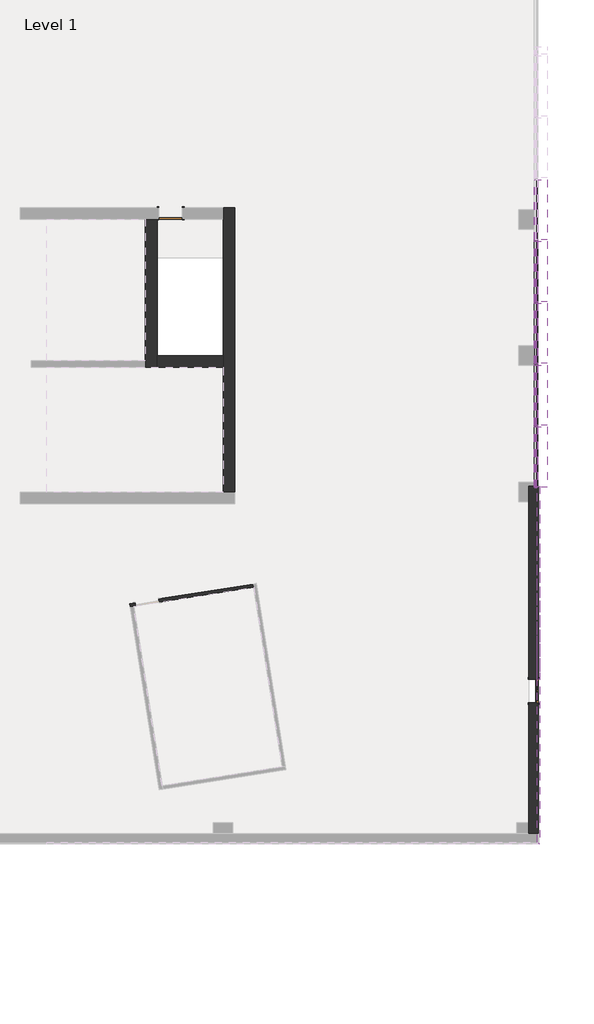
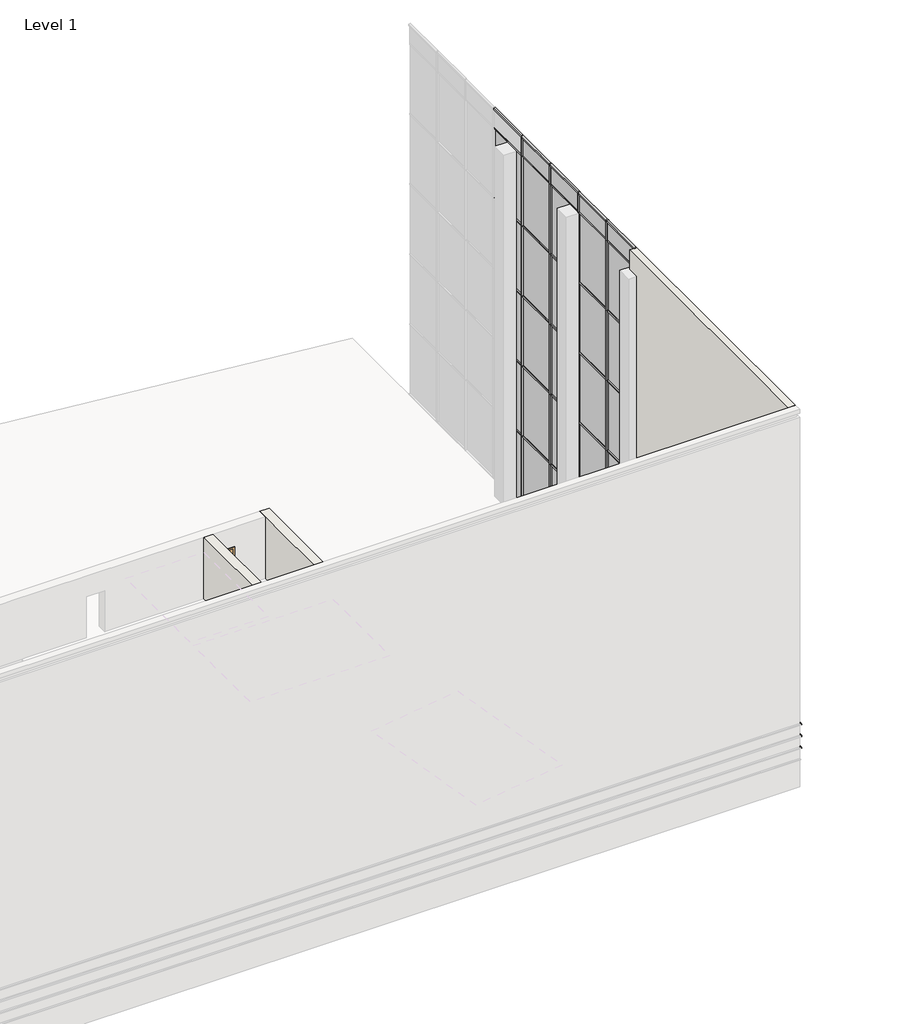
# One storey, part 8 of 23: 64 members, 29 plates, 5 walls, 3 proxies, 2 doors.
"""IFC4 building model written with IfcOpenShell, lengths in millimetres."""

from ifc_helpers import new_model, si_unit, frame, origin, origin_with_axes, place, context, project, spatial, polyline, outline, extrude, faceted_brep, transform, mapped, element, save
from components import door_3c99239a, door_e057ad39, member_4178592a, member_8dc9af40, member_0491a5d0, member_26e31a6d, member_a26b4311, member_810865a4, member_90793d7c, member_64b167af, system_panel_glazed_bb983545, system_panel_solid_a8b18003

model = new_model("IFC4")

# Units and contexts
model_context = context("Model", 3, world=origin())
ifc_project = project(units=[si_unit("LENGTHUNIT", "METRE", prefix="MILLI")], contexts=[model_context])

# Site, building, storey
site = spatial("IfcSite", under=ifc_project)
building = spatial("IfcBuilding", under=site)
storey = spatial("IfcBuildingStorey", under=building, Name="Level 1", Elevation=0.0)

# Proxies
placement = place(None, origin())
element("IfcBuildingElementProxy", 1, Name="Reveals", at=placement, inside=storey, context=model_context, shape_type="SweptSolid", body=[
    extrude(outline(polyline([(15157.6054088, -14142.3728492), (15249.6804088, -14142.3728492), (15249.6804088, -21686.0488327), (15157.6054088, -21686.0488327), (15157.6054088, -14142.3728492)])), frame((0.0, 0.0, 1625.6), z_axis=(0.0, 0.0, 1.0), x_axis=(1.0, 0.0, 0.0)), (0.0, 0.0, 1.0), 67.7333333),
    extrude(outline(polyline([(15157.6054088, -22600.4488327), (15249.6804088, -22600.4488327), (15249.6804088, -28148.8853492), (15157.6054088, -28056.8103492), (15157.6054088, -22600.4488327)])), frame((0.0, 0.0, 1625.6), z_axis=(0.0, 0.0, 1.0), x_axis=(1.0, 0.0, 0.0)), (0.0, 0.0, 1.0), 67.7333333),
])
element("IfcBuildingElementProxy", 2, Name="Reveals", at=placement, inside=storey, context=model_context, shape_type="SweptSolid", body=[
    extrude(outline(polyline([(15157.6054088, -14142.3728492), (15249.6804088, -14142.3728492), (15249.6804088, -28148.8853492), (15157.6054088, -28056.8103492), (15157.6054088, -14142.3728492)])), frame((0.0, 0.0, 2235.2), z_axis=(0.0, 0.0, 1.0), x_axis=(1.0, 0.0, 0.0)), (0.0, 0.0, 1.0), 67.7333333),
])
element("IfcBuildingElementProxy", 3, Name="Reveals", at=placement, inside=storey, context=model_context, shape_type="SweptSolid", body=[
    extrude(outline(polyline([(15157.6054088, -14142.3728492), (15249.6804088, -14142.3728492), (15249.6804088, -28148.8853492), (15157.6054088, -28056.8103492), (15157.6054088, -14142.3728492)])), frame((0.0, 0.0, 2844.8), z_axis=(0.0, 0.0, 1.0), x_axis=(1.0, 0.0, 0.0)), (0.0, 0.0, 1.0), 67.7333333),
])

# Doors
door_shape = door_3c99239a(model_context)
element("IfcDoor", 4, ObjectType="Single-Flush : 36\" x 84\"", at=placement, inside=storey, context=model_context, shape_type="MappedRepresentation", body=[
    mapped(door_shape, transform((817.7000645, -3469.6103492, 0.0), x_axis=(-1.0, 0.0, 0.0), y_axis=(0.0, -1.0, 0.0), z_axis=(0.0, 0.0, 1.0))),
])
door_2_shape = door_e057ad39(model_context)
element("IfcDoor", 5, ObjectType="Single-Glass 3 : 36\" x 84\"", at=placement, inside=storey, context=model_context, shape_type="MappedRepresentation", body=[
    mapped(door_2_shape, transform((15006.7929088, -22143.3728492, 0.0), x_axis=(0.0, -1.0, 0.0), y_axis=(1.0, 0.0, 0.0), z_axis=(0.0, 0.0, 1.0))),
])

# Members
member_shape = member_4178592a(model_context)
element("IfcMember", 6, ObjectType="Quad Corner Mullion : 5\" x 5\" Quad Corner", at=placement, inside=storey, context=model_context, shape_type="MappedRepresentation", body=[
    mapped(member_shape, transform((15106.8054088, -14174.1228492, 19304.0), x_axis=(0.0, 0.0, 1.0), y_axis=(-1.0, 0.0, 0.0), z_axis=(0.0, -1.0, 0.0))),
])
element("IfcMember", 7, ObjectType="Quad Corner Mullion : 5\" x 5\" Quad Corner", at=placement, inside=storey, context=model_context, shape_type="MappedRepresentation", body=[
    mapped(member_shape, transform((15106.8054088, -4501.4913788, 19304.0), x_axis=(0.0, 0.0, 1.0), y_axis=(-1.0, 0.0, 0.0), z_axis=(0.0, -1.0, 0.0))),
])
element("IfcMember", 8, ObjectType="Quad Corner Mullion : 5\" x 5\" Quad Corner", at=placement, inside=storey, context=model_context, shape_type="MappedRepresentation", body=[
    mapped(member_shape, transform((15106.8054088, -6919.6492464, 19304.0), x_axis=(0.0, 0.0, 1.0), y_axis=(-1.0, 0.0, 0.0), z_axis=(0.0, -1.0, 0.0))),
])
element("IfcMember", 9, ObjectType="Quad Corner Mullion : 5\" x 5\" Quad Corner", at=placement, inside=storey, context=model_context, shape_type="MappedRepresentation", body=[
    mapped(member_shape, transform((15106.8054088, -9337.807114, 19304.0), x_axis=(0.0, 0.0, 1.0), y_axis=(-1.0, 0.0, 0.0), z_axis=(0.0, -1.0, 0.0))),
])
element("IfcMember", 10, ObjectType="Quad Corner Mullion : 5\" x 5\" Quad Corner", at=placement, inside=storey, context=model_context, shape_type="MappedRepresentation", body=[
    mapped(member_shape, transform((15106.8054088, -11755.9649816, 19304.0), x_axis=(0.0, 0.0, 1.0), y_axis=(-1.0, 0.0, 0.0), z_axis=(0.0, -1.0, 0.0))),
])
element("IfcMember", 11, ObjectType="Quad Corner Mullion : 5\" x 5\" Quad Corner", at=placement, inside=storey, context=model_context, shape_type="MappedRepresentation", body=[
    mapped(member_shape, transform((15106.8054088, -4564.9913788, 0.0), x_axis=(0.0, 0.0, -1.0), y_axis=(-1.0, 0.0, 0.0), z_axis=(0.0, 1.0, 0.0))),
])
element("IfcMember", 12, ObjectType="Quad Corner Mullion : 5\" x 5\" Quad Corner", at=placement, inside=storey, context=model_context, shape_type="MappedRepresentation", body=[
    mapped(member_shape, transform((15106.8054088, -6983.1492464, 0.0), x_axis=(0.0, 0.0, -1.0), y_axis=(-1.0, 0.0, 0.0), z_axis=(0.0, 1.0, 0.0))),
])
element("IfcMember", 13, ObjectType="Quad Corner Mullion : 5\" x 5\" Quad Corner", at=placement, inside=storey, context=model_context, shape_type="MappedRepresentation", body=[
    mapped(member_shape, transform((15106.8054088, -9401.307114, 0.0), x_axis=(0.0, 0.0, -1.0), y_axis=(-1.0, 0.0, 0.0), z_axis=(0.0, 1.0, 0.0))),
])
element("IfcMember", 14, ObjectType="Quad Corner Mullion : 5\" x 5\" Quad Corner", at=placement, inside=storey, context=model_context, shape_type="MappedRepresentation", body=[
    mapped(member_shape, transform((15106.8054088, -11819.4649816, 0.0), x_axis=(0.0, 0.0, -1.0), y_axis=(-1.0, 0.0, 0.0), z_axis=(0.0, 1.0, 0.0))),
])
member_2_shape = member_8dc9af40(model_context)
element("IfcMember", 15, ObjectType="Rectangular Mullion : 1.5\" x 2.5\" rectangular", at=placement, inside=storey, context=model_context, shape_type="MappedRepresentation", body=[
    mapped(member_2_shape, transform((15106.8054088, -14212.2228492, 3666.6228811), x_axis=(0.0, -1.0, 0.0), y_axis=(-1.0, 0.0, 0.0), z_axis=(0.0, 0.0, -1.0))),
])
element("IfcMember", 16, ObjectType="Rectangular Mullion : 1.5\" x 2.5\" rectangular", at=placement, inside=storey, context=model_context, shape_type="MappedRepresentation", body=[
    mapped(member_2_shape, transform((15106.8054088, -14212.2228492, 7324.2228811), x_axis=(0.0, -1.0, 0.0), y_axis=(-1.0, 0.0, 0.0), z_axis=(0.0, 0.0, -1.0))),
])
element("IfcMember", 17, ObjectType="Rectangular Mullion : 1.5\" x 2.5\" rectangular", at=placement, inside=storey, context=model_context, shape_type="MappedRepresentation", body=[
    mapped(member_2_shape, transform((15106.8054088, -14212.2228492, 10981.8228811), x_axis=(0.0, -1.0, 0.0), y_axis=(-1.0, 0.0, 0.0), z_axis=(0.0, 0.0, -1.0))),
])
element("IfcMember", 18, ObjectType="Rectangular Mullion : 1.5\" x 2.5\" rectangular", at=placement, inside=storey, context=model_context, shape_type="MappedRepresentation", body=[
    mapped(member_2_shape, transform((15106.8054088, -14212.2228492, 14639.4228811), x_axis=(0.0, -1.0, 0.0), y_axis=(-1.0, 0.0, 0.0), z_axis=(0.0, 0.0, -1.0))),
])
member_3_shape = member_0491a5d0(model_context)
element("IfcMember", 19, ObjectType="Rectangular Mullion : 1.5\" x 2.5\" rectangular", at=placement, inside=storey, context=model_context, shape_type="MappedRepresentation", body=[
    mapped(member_3_shape, transform((15106.8054088, -14212.2228492, 0.0), x_axis=(0.0, -1.0, 0.0), y_axis=(-1.0, 0.0, 0.0), z_axis=(0.0, 0.0, -1.0))),
])
member_4_shape = member_26e31a6d(model_context)
element("IfcMember", 20, ObjectType="Rectangular Mullion : 1.5\" x 2.5\" rectangular", at=placement, inside=storey, context=model_context, shape_type="MappedRepresentation", body=[
    mapped(member_4_shape, transform((15106.8054088, -14212.2228492, 18297.0228811), x_axis=(0.0, -1.0, 0.0), y_axis=(-1.0, 0.0, 0.0), z_axis=(0.0, 0.0, -1.0))),
])
member_5_shape = member_a26b4311(model_context)
element("IfcMember", 21, ObjectType="Rectangular Mullion : 2.5\" x 18\" rectangular", at=placement, inside=storey, context=model_context, shape_type="MappedRepresentation", body=[
    mapped(member_5_shape, transform((15106.8054088, -4501.4913788, 3666.6228811), x_axis=(0.0, 0.0, 1.0), y_axis=(-1.0, 0.0, 0.0), z_axis=(0.0, -1.0, 0.0))),
])
element("IfcMember", 22, ObjectType="Rectangular Mullion : 2.5\" x 18\" rectangular", at=placement, inside=storey, context=model_context, shape_type="MappedRepresentation", body=[
    mapped(member_5_shape, transform((15106.8054088, -6919.6492464, 3666.6228811), x_axis=(0.0, 0.0, 1.0), y_axis=(-1.0, 0.0, 0.0), z_axis=(0.0, -1.0, 0.0))),
])
element("IfcMember", 23, ObjectType="Rectangular Mullion : 2.5\" x 18\" rectangular", at=placement, inside=storey, context=model_context, shape_type="MappedRepresentation", body=[
    mapped(member_5_shape, transform((15106.8054088, -9337.807114, 3666.6228811), x_axis=(0.0, 0.0, 1.0), y_axis=(-1.0, 0.0, 0.0), z_axis=(0.0, -1.0, 0.0))),
])
element("IfcMember", 24, ObjectType="Rectangular Mullion : 2.5\" x 18\" rectangular", at=placement, inside=storey, context=model_context, shape_type="MappedRepresentation", body=[
    mapped(member_5_shape, transform((15106.8054088, -11755.9649816, 3666.6228811), x_axis=(0.0, 0.0, 1.0), y_axis=(-1.0, 0.0, 0.0), z_axis=(0.0, -1.0, 0.0))),
])
element("IfcMember", 25, ObjectType="Rectangular Mullion : 2.5\" x 18\" rectangular", at=placement, inside=storey, context=model_context, shape_type="MappedRepresentation", body=[
    mapped(member_5_shape, transform((15106.8054088, -14174.1228492, 3666.6228811), x_axis=(0.0, 0.0, 1.0), y_axis=(-1.0, 0.0, 0.0), z_axis=(0.0, -1.0, 0.0))),
])
element("IfcMember", 26, ObjectType="Rectangular Mullion : 2.5\" x 18\" rectangular", at=placement, inside=storey, context=model_context, shape_type="MappedRepresentation", body=[
    mapped(member_5_shape, transform((15106.8054088, -4501.4913788, 7324.2228811), x_axis=(0.0, 0.0, 1.0), y_axis=(-1.0, 0.0, 0.0), z_axis=(0.0, -1.0, 0.0))),
])
element("IfcMember", 27, ObjectType="Rectangular Mullion : 2.5\" x 18\" rectangular", at=placement, inside=storey, context=model_context, shape_type="MappedRepresentation", body=[
    mapped(member_5_shape, transform((15106.8054088, -6919.6492464, 7324.2228811), x_axis=(0.0, 0.0, 1.0), y_axis=(-1.0, 0.0, 0.0), z_axis=(0.0, -1.0, 0.0))),
])
element("IfcMember", 28, ObjectType="Rectangular Mullion : 2.5\" x 18\" rectangular", at=placement, inside=storey, context=model_context, shape_type="MappedRepresentation", body=[
    mapped(member_5_shape, transform((15106.8054088, -9337.807114, 7324.2228811), x_axis=(0.0, 0.0, 1.0), y_axis=(-1.0, 0.0, 0.0), z_axis=(0.0, -1.0, 0.0))),
])
element("IfcMember", 29, ObjectType="Rectangular Mullion : 2.5\" x 18\" rectangular", at=placement, inside=storey, context=model_context, shape_type="MappedRepresentation", body=[
    mapped(member_5_shape, transform((15106.8054088, -11755.9649816, 7324.2228811), x_axis=(0.0, 0.0, 1.0), y_axis=(-1.0, 0.0, 0.0), z_axis=(0.0, -1.0, 0.0))),
])
element("IfcMember", 30, ObjectType="Rectangular Mullion : 2.5\" x 18\" rectangular", at=placement, inside=storey, context=model_context, shape_type="MappedRepresentation", body=[
    mapped(member_5_shape, transform((15106.8054088, -14174.1228492, 7324.2228811), x_axis=(0.0, 0.0, 1.0), y_axis=(-1.0, 0.0, 0.0), z_axis=(0.0, -1.0, 0.0))),
])
element("IfcMember", 31, ObjectType="Rectangular Mullion : 2.5\" x 18\" rectangular", at=placement, inside=storey, context=model_context, shape_type="MappedRepresentation", body=[
    mapped(member_5_shape, transform((15106.8054088, -4501.4913788, 10981.8228811), x_axis=(0.0, 0.0, 1.0), y_axis=(-1.0, 0.0, 0.0), z_axis=(0.0, -1.0, 0.0))),
])
element("IfcMember", 32, ObjectType="Rectangular Mullion : 2.5\" x 18\" rectangular", at=placement, inside=storey, context=model_context, shape_type="MappedRepresentation", body=[
    mapped(member_5_shape, transform((15106.8054088, -6919.6492464, 10981.8228811), x_axis=(0.0, 0.0, 1.0), y_axis=(-1.0, 0.0, 0.0), z_axis=(0.0, -1.0, 0.0))),
])
element("IfcMember", 33, ObjectType="Rectangular Mullion : 2.5\" x 18\" rectangular", at=placement, inside=storey, context=model_context, shape_type="MappedRepresentation", body=[
    mapped(member_5_shape, transform((15106.8054088, -9337.807114, 10981.8228811), x_axis=(0.0, 0.0, 1.0), y_axis=(-1.0, 0.0, 0.0), z_axis=(0.0, -1.0, 0.0))),
])
element("IfcMember", 34, ObjectType="Rectangular Mullion : 2.5\" x 18\" rectangular", at=placement, inside=storey, context=model_context, shape_type="MappedRepresentation", body=[
    mapped(member_5_shape, transform((15106.8054088, -11755.9649816, 10981.8228811), x_axis=(0.0, 0.0, 1.0), y_axis=(-1.0, 0.0, 0.0), z_axis=(0.0, -1.0, 0.0))),
])
element("IfcMember", 35, ObjectType="Rectangular Mullion : 2.5\" x 18\" rectangular", at=placement, inside=storey, context=model_context, shape_type="MappedRepresentation", body=[
    mapped(member_5_shape, transform((15106.8054088, -14174.1228492, 10981.8228811), x_axis=(0.0, 0.0, 1.0), y_axis=(-1.0, 0.0, 0.0), z_axis=(0.0, -1.0, 0.0))),
])
element("IfcMember", 36, ObjectType="Rectangular Mullion : 2.5\" x 18\" rectangular", at=placement, inside=storey, context=model_context, shape_type="MappedRepresentation", body=[
    mapped(member_5_shape, transform((15106.8054088, -4501.4913788, 14639.4228811), x_axis=(0.0, 0.0, 1.0), y_axis=(-1.0, 0.0, 0.0), z_axis=(0.0, -1.0, 0.0))),
])
element("IfcMember", 37, ObjectType="Rectangular Mullion : 2.5\" x 18\" rectangular", at=placement, inside=storey, context=model_context, shape_type="MappedRepresentation", body=[
    mapped(member_5_shape, transform((15106.8054088, -6919.6492464, 14639.4228811), x_axis=(0.0, 0.0, 1.0), y_axis=(-1.0, 0.0, 0.0), z_axis=(0.0, -1.0, 0.0))),
])
element("IfcMember", 38, ObjectType="Rectangular Mullion : 2.5\" x 18\" rectangular", at=placement, inside=storey, context=model_context, shape_type="MappedRepresentation", body=[
    mapped(member_5_shape, transform((15106.8054088, -9337.807114, 14639.4228811), x_axis=(0.0, 0.0, 1.0), y_axis=(-1.0, 0.0, 0.0), z_axis=(0.0, -1.0, 0.0))),
])
element("IfcMember", 39, ObjectType="Rectangular Mullion : 2.5\" x 18\" rectangular", at=placement, inside=storey, context=model_context, shape_type="MappedRepresentation", body=[
    mapped(member_5_shape, transform((15106.8054088, -11755.9649816, 14639.4228811), x_axis=(0.0, 0.0, 1.0), y_axis=(-1.0, 0.0, 0.0), z_axis=(0.0, -1.0, 0.0))),
])
element("IfcMember", 40, ObjectType="Rectangular Mullion : 2.5\" x 18\" rectangular", at=placement, inside=storey, context=model_context, shape_type="MappedRepresentation", body=[
    mapped(member_5_shape, transform((15106.8054088, -14174.1228492, 14639.4228811), x_axis=(0.0, 0.0, 1.0), y_axis=(-1.0, 0.0, 0.0), z_axis=(0.0, -1.0, 0.0))),
])
element("IfcMember", 41, ObjectType="Rectangular Mullion : 2.5\" x 18\" rectangular", at=placement, inside=storey, context=model_context, shape_type="MappedRepresentation", body=[
    mapped(member_5_shape, transform((15106.8054088, -4501.4913788, 18297.0228811), x_axis=(0.0, 0.0, 1.0), y_axis=(-1.0, 0.0, 0.0), z_axis=(0.0, -1.0, 0.0))),
])
element("IfcMember", 42, ObjectType="Rectangular Mullion : 2.5\" x 18\" rectangular", at=placement, inside=storey, context=model_context, shape_type="MappedRepresentation", body=[
    mapped(member_5_shape, transform((15106.8054088, -6919.6492464, 18297.0228811), x_axis=(0.0, 0.0, 1.0), y_axis=(-1.0, 0.0, 0.0), z_axis=(0.0, -1.0, 0.0))),
])
element("IfcMember", 43, ObjectType="Rectangular Mullion : 2.5\" x 18\" rectangular", at=placement, inside=storey, context=model_context, shape_type="MappedRepresentation", body=[
    mapped(member_5_shape, transform((15106.8054088, -9337.807114, 18297.0228811), x_axis=(0.0, 0.0, 1.0), y_axis=(-1.0, 0.0, 0.0), z_axis=(0.0, -1.0, 0.0))),
])
element("IfcMember", 44, ObjectType="Rectangular Mullion : 2.5\" x 18\" rectangular", at=placement, inside=storey, context=model_context, shape_type="MappedRepresentation", body=[
    mapped(member_5_shape, transform((15106.8054088, -11755.9649816, 18297.0228811), x_axis=(0.0, 0.0, 1.0), y_axis=(-1.0, 0.0, 0.0), z_axis=(0.0, -1.0, 0.0))),
])
element("IfcMember", 45, ObjectType="Rectangular Mullion : 2.5\" x 18\" rectangular", at=placement, inside=storey, context=model_context, shape_type="MappedRepresentation", body=[
    mapped(member_5_shape, transform((15106.8054088, -14174.1228492, 18297.0228811), x_axis=(0.0, 0.0, 1.0), y_axis=(-1.0, 0.0, 0.0), z_axis=(0.0, -1.0, 0.0))),
])
member_6_shape = member_810865a4(model_context)
element("IfcMember", 46, ObjectType="Rectangular Mullion : 2.5\" x 5\" rectangular", at=placement, inside=storey, context=model_context, shape_type="MappedRepresentation", body=[
    mapped(member_6_shape, transform((15106.8054088, -9369.557114, 3666.6228811), x_axis=(0.0, -1.0, 0.0), y_axis=(-1.0, 0.0, 0.0), z_axis=(0.0, 0.0, -1.0))),
])
element("IfcMember", 47, ObjectType="Rectangular Mullion : 2.5\" x 5\" rectangular", at=placement, inside=storey, context=model_context, shape_type="MappedRepresentation", body=[
    mapped(member_6_shape, transform((15106.8054088, -4533.2413788, 3666.6228811), x_axis=(0.0, -1.0, 0.0), y_axis=(-1.0, 0.0, 0.0), z_axis=(0.0, 0.0, -1.0))),
])
element("IfcMember", 48, ObjectType="Rectangular Mullion : 2.5\" x 5\" rectangular", at=placement, inside=storey, context=model_context, shape_type="MappedRepresentation", body=[
    mapped(member_6_shape, transform((15106.8054088, -6951.3992464, 3666.6228811), x_axis=(0.0, -1.0, 0.0), y_axis=(-1.0, 0.0, 0.0), z_axis=(0.0, 0.0, -1.0))),
])
element("IfcMember", 49, ObjectType="Rectangular Mullion : 2.5\" x 5\" rectangular", at=placement, inside=storey, context=model_context, shape_type="MappedRepresentation", body=[
    mapped(member_6_shape, transform((15106.8054088, -11787.7149816, 3666.6228811), x_axis=(0.0, -1.0, 0.0), y_axis=(-1.0, 0.0, 0.0), z_axis=(0.0, 0.0, -1.0))),
])
element("IfcMember", 50, ObjectType="Rectangular Mullion : 2.5\" x 5\" rectangular", at=placement, inside=storey, context=model_context, shape_type="MappedRepresentation", body=[
    mapped(member_6_shape, transform((15106.8054088, -9369.557114, 7324.2228811), x_axis=(0.0, -1.0, 0.0), y_axis=(-1.0, 0.0, 0.0), z_axis=(0.0, 0.0, -1.0))),
])
element("IfcMember", 51, ObjectType="Rectangular Mullion : 2.5\" x 5\" rectangular", at=placement, inside=storey, context=model_context, shape_type="MappedRepresentation", body=[
    mapped(member_6_shape, transform((15106.8054088, -4533.2413788, 7324.2228811), x_axis=(0.0, -1.0, 0.0), y_axis=(-1.0, 0.0, 0.0), z_axis=(0.0, 0.0, -1.0))),
])
element("IfcMember", 52, ObjectType="Rectangular Mullion : 2.5\" x 5\" rectangular", at=placement, inside=storey, context=model_context, shape_type="MappedRepresentation", body=[
    mapped(member_6_shape, transform((15106.8054088, -6951.3992464, 7324.2228811), x_axis=(0.0, -1.0, 0.0), y_axis=(-1.0, 0.0, 0.0), z_axis=(0.0, 0.0, -1.0))),
])
element("IfcMember", 53, ObjectType="Rectangular Mullion : 2.5\" x 5\" rectangular", at=placement, inside=storey, context=model_context, shape_type="MappedRepresentation", body=[
    mapped(member_6_shape, transform((15106.8054088, -11787.7149816, 7324.2228811), x_axis=(0.0, -1.0, 0.0), y_axis=(-1.0, 0.0, 0.0), z_axis=(0.0, 0.0, -1.0))),
])
element("IfcMember", 54, ObjectType="Rectangular Mullion : 2.5\" x 5\" rectangular", at=placement, inside=storey, context=model_context, shape_type="MappedRepresentation", body=[
    mapped(member_6_shape, transform((15106.8054088, -9369.557114, 10981.8228811), x_axis=(0.0, -1.0, 0.0), y_axis=(-1.0, 0.0, 0.0), z_axis=(0.0, 0.0, -1.0))),
])
element("IfcMember", 55, ObjectType="Rectangular Mullion : 2.5\" x 5\" rectangular", at=placement, inside=storey, context=model_context, shape_type="MappedRepresentation", body=[
    mapped(member_6_shape, transform((15106.8054088, -4533.2413788, 10981.8228811), x_axis=(0.0, -1.0, 0.0), y_axis=(-1.0, 0.0, 0.0), z_axis=(0.0, 0.0, -1.0))),
])
element("IfcMember", 56, ObjectType="Rectangular Mullion : 2.5\" x 5\" rectangular", at=placement, inside=storey, context=model_context, shape_type="MappedRepresentation", body=[
    mapped(member_6_shape, transform((15106.8054088, -6951.3992464, 10981.8228811), x_axis=(0.0, -1.0, 0.0), y_axis=(-1.0, 0.0, 0.0), z_axis=(0.0, 0.0, -1.0))),
])
element("IfcMember", 57, ObjectType="Rectangular Mullion : 2.5\" x 5\" rectangular", at=placement, inside=storey, context=model_context, shape_type="MappedRepresentation", body=[
    mapped(member_6_shape, transform((15106.8054088, -11787.7149816, 10981.8228811), x_axis=(0.0, -1.0, 0.0), y_axis=(-1.0, 0.0, 0.0), z_axis=(0.0, 0.0, -1.0))),
])
element("IfcMember", 58, ObjectType="Rectangular Mullion : 2.5\" x 5\" rectangular", at=placement, inside=storey, context=model_context, shape_type="MappedRepresentation", body=[
    mapped(member_6_shape, transform((15106.8054088, -9369.557114, 14639.4228811), x_axis=(0.0, -1.0, 0.0), y_axis=(-1.0, 0.0, 0.0), z_axis=(0.0, 0.0, -1.0))),
])
element("IfcMember", 59, ObjectType="Rectangular Mullion : 2.5\" x 5\" rectangular", at=placement, inside=storey, context=model_context, shape_type="MappedRepresentation", body=[
    mapped(member_6_shape, transform((15106.8054088, -4533.2413788, 14639.4228811), x_axis=(0.0, -1.0, 0.0), y_axis=(-1.0, 0.0, 0.0), z_axis=(0.0, 0.0, -1.0))),
])
element("IfcMember", 60, ObjectType="Rectangular Mullion : 2.5\" x 5\" rectangular", at=placement, inside=storey, context=model_context, shape_type="MappedRepresentation", body=[
    mapped(member_6_shape, transform((15106.8054088, -6951.3992464, 14639.4228811), x_axis=(0.0, -1.0, 0.0), y_axis=(-1.0, 0.0, 0.0), z_axis=(0.0, 0.0, -1.0))),
])
element("IfcMember", 61, ObjectType="Rectangular Mullion : 2.5\" x 5\" rectangular", at=placement, inside=storey, context=model_context, shape_type="MappedRepresentation", body=[
    mapped(member_6_shape, transform((15106.8054088, -11787.7149816, 14639.4228811), x_axis=(0.0, -1.0, 0.0), y_axis=(-1.0, 0.0, 0.0), z_axis=(0.0, 0.0, -1.0))),
])
member_7_shape = member_90793d7c(model_context)
element("IfcMember", 62, ObjectType="Rectangular Mullion : 2.5\" x 5\" rectangular", at=placement, inside=storey, context=model_context, shape_type="MappedRepresentation", body=[
    mapped(member_7_shape, transform((15106.8054088, -9369.557114, 0.0), x_axis=(0.0, -1.0, 0.0), y_axis=(-1.0, 0.0, 0.0), z_axis=(0.0, 0.0, -1.0))),
])
element("IfcMember", 63, ObjectType="Rectangular Mullion : 2.5\" x 5\" rectangular", at=placement, inside=storey, context=model_context, shape_type="MappedRepresentation", body=[
    mapped(member_7_shape, transform((15106.8054088, -4533.2413788, 0.0), x_axis=(0.0, -1.0, 0.0), y_axis=(-1.0, 0.0, 0.0), z_axis=(0.0, 0.0, -1.0))),
])
element("IfcMember", 64, ObjectType="Rectangular Mullion : 2.5\" x 5\" rectangular", at=placement, inside=storey, context=model_context, shape_type="MappedRepresentation", body=[
    mapped(member_7_shape, transform((15106.8054088, -6951.3992464, 0.0), x_axis=(0.0, -1.0, 0.0), y_axis=(-1.0, 0.0, 0.0), z_axis=(0.0, 0.0, -1.0))),
])
element("IfcMember", 65, ObjectType="Rectangular Mullion : 2.5\" x 5\" rectangular", at=placement, inside=storey, context=model_context, shape_type="MappedRepresentation", body=[
    mapped(member_7_shape, transform((15106.8054088, -11787.7149816, 0.0), x_axis=(0.0, -1.0, 0.0), y_axis=(-1.0, 0.0, 0.0), z_axis=(0.0, 0.0, -1.0))),
])
member_8_shape = member_64b167af(model_context)
element("IfcMember", 66, ObjectType="Rectangular Mullion : 2.5\" x 5\" rectangular", at=placement, inside=storey, context=model_context, shape_type="MappedRepresentation", body=[
    mapped(member_8_shape, transform((15106.8054088, -9369.557114, 18297.0228811), x_axis=(0.0, -1.0, 0.0), y_axis=(-1.0, 0.0, 0.0), z_axis=(0.0, 0.0, -1.0))),
])
element("IfcMember", 67, ObjectType="Rectangular Mullion : 2.5\" x 5\" rectangular", at=placement, inside=storey, context=model_context, shape_type="MappedRepresentation", body=[
    mapped(member_8_shape, transform((15106.8054088, -4533.2413788, 18297.0228811), x_axis=(0.0, -1.0, 0.0), y_axis=(-1.0, 0.0, 0.0), z_axis=(0.0, 0.0, -1.0))),
])
element("IfcMember", 68, ObjectType="Rectangular Mullion : 2.5\" x 5\" rectangular", at=placement, inside=storey, context=model_context, shape_type="MappedRepresentation", body=[
    mapped(member_8_shape, transform((15106.8054088, -6951.3992464, 18297.0228811), x_axis=(0.0, -1.0, 0.0), y_axis=(-1.0, 0.0, 0.0), z_axis=(0.0, 0.0, -1.0))),
])
element("IfcMember", 69, ObjectType="Rectangular Mullion : 2.5\" x 5\" rectangular", at=placement, inside=storey, context=model_context, shape_type="MappedRepresentation", body=[
    mapped(member_8_shape, transform((15106.8054088, -11787.7149816, 18297.0228811), x_axis=(0.0, -1.0, 0.0), y_axis=(-1.0, 0.0, 0.0), z_axis=(0.0, 0.0, -1.0))),
])

# Plates
system_panel_glazed_shape = system_panel_glazed_bb983545(model_context)
element("IfcPlate", 70, ObjectType="System Panel : Glazed", at=placement, inside=storey, context=model_context, shape_type="MappedRepresentation", body=[
    mapped(system_panel_glazed_shape, transform((15106.8054088, -3324.162445, 40.7728811), x_axis=(0.0, -1.0, 0.0), y_axis=(1.0, 0.0, 0.0), z_axis=(0.0, 0.0, 1.0))),
])
element("IfcPlate", 71, ObjectType="System Panel : Glazed", at=placement, inside=storey, context=model_context, shape_type="MappedRepresentation", body=[
    mapped(system_panel_glazed_shape, transform((15106.8054088, -3324.162445, 3698.3728811), x_axis=(0.0, -1.0, 0.0), y_axis=(1.0, 0.0, 0.0), z_axis=(0.0, 0.0, 1.0))),
])
element("IfcPlate", 72, ObjectType="System Panel : Glazed", at=placement, inside=storey, context=model_context, shape_type="MappedRepresentation", body=[
    mapped(system_panel_glazed_shape, transform((15106.8054088, -3324.162445, 7355.9728811), x_axis=(0.0, -1.0, 0.0), y_axis=(1.0, 0.0, 0.0), z_axis=(0.0, 0.0, 1.0))),
])
element("IfcPlate", 73, ObjectType="System Panel : Glazed", at=placement, inside=storey, context=model_context, shape_type="MappedRepresentation", body=[
    mapped(system_panel_glazed_shape, transform((15106.8054088, -3324.162445, 11013.5728811), x_axis=(0.0, -1.0, 0.0), y_axis=(1.0, 0.0, 0.0), z_axis=(0.0, 0.0, 1.0))),
])
element("IfcPlate", 74, ObjectType="System Panel : Glazed", at=placement, inside=storey, context=model_context, shape_type="MappedRepresentation", body=[
    mapped(system_panel_glazed_shape, transform((15106.8054088, -3324.162445, 14671.1728811), x_axis=(0.0, -1.0, 0.0), y_axis=(1.0, 0.0, 0.0), z_axis=(0.0, 0.0, 1.0))),
])
element("IfcPlate", 75, ObjectType="System Panel : Glazed", at=placement, inside=storey, context=model_context, shape_type="MappedRepresentation", body=[
    mapped(system_panel_glazed_shape, transform((15106.8054088, -5742.3203126, 40.7728811), x_axis=(0.0, -1.0, 0.0), y_axis=(1.0, 0.0, 0.0), z_axis=(0.0, 0.0, 1.0))),
])
element("IfcPlate", 76, ObjectType="System Panel : Glazed", at=placement, inside=storey, context=model_context, shape_type="MappedRepresentation", body=[
    mapped(system_panel_glazed_shape, transform((15106.8054088, -5742.3203126, 3698.3728811), x_axis=(0.0, -1.0, 0.0), y_axis=(1.0, 0.0, 0.0), z_axis=(0.0, 0.0, 1.0))),
])
element("IfcPlate", 77, ObjectType="System Panel : Glazed", at=placement, inside=storey, context=model_context, shape_type="MappedRepresentation", body=[
    mapped(system_panel_glazed_shape, transform((15106.8054088, -5742.3203126, 7355.9728811), x_axis=(0.0, -1.0, 0.0), y_axis=(1.0, 0.0, 0.0), z_axis=(0.0, 0.0, 1.0))),
])
element("IfcPlate", 78, ObjectType="System Panel : Glazed", at=placement, inside=storey, context=model_context, shape_type="MappedRepresentation", body=[
    mapped(system_panel_glazed_shape, transform((15106.8054088, -5742.3203126, 11013.5728811), x_axis=(0.0, -1.0, 0.0), y_axis=(1.0, 0.0, 0.0), z_axis=(0.0, 0.0, 1.0))),
])
element("IfcPlate", 79, ObjectType="System Panel : Glazed", at=placement, inside=storey, context=model_context, shape_type="MappedRepresentation", body=[
    mapped(system_panel_glazed_shape, transform((15106.8054088, -5742.3203126, 14671.1728811), x_axis=(0.0, -1.0, 0.0), y_axis=(1.0, 0.0, 0.0), z_axis=(0.0, 0.0, 1.0))),
])
element("IfcPlate", 80, ObjectType="System Panel : Glazed", at=placement, inside=storey, context=model_context, shape_type="MappedRepresentation", body=[
    mapped(system_panel_glazed_shape, transform((15106.8054088, -8160.4781802, 40.7728811), x_axis=(0.0, -1.0, 0.0), y_axis=(1.0, 0.0, 0.0), z_axis=(0.0, 0.0, 1.0))),
])
element("IfcPlate", 81, ObjectType="System Panel : Glazed", at=placement, inside=storey, context=model_context, shape_type="MappedRepresentation", body=[
    mapped(system_panel_glazed_shape, transform((15106.8054088, -8160.4781802, 3698.3728811), x_axis=(0.0, -1.0, 0.0), y_axis=(1.0, 0.0, 0.0), z_axis=(0.0, 0.0, 1.0))),
])
element("IfcPlate", 82, ObjectType="System Panel : Glazed", at=placement, inside=storey, context=model_context, shape_type="MappedRepresentation", body=[
    mapped(system_panel_glazed_shape, transform((15106.8054088, -8160.4781802, 7355.9728811), x_axis=(0.0, -1.0, 0.0), y_axis=(1.0, 0.0, 0.0), z_axis=(0.0, 0.0, 1.0))),
])
element("IfcPlate", 83, ObjectType="System Panel : Glazed", at=placement, inside=storey, context=model_context, shape_type="MappedRepresentation", body=[
    mapped(system_panel_glazed_shape, transform((15106.8054088, -8160.4781802, 11013.5728811), x_axis=(0.0, -1.0, 0.0), y_axis=(1.0, 0.0, 0.0), z_axis=(0.0, 0.0, 1.0))),
])
element("IfcPlate", 84, ObjectType="System Panel : Glazed", at=placement, inside=storey, context=model_context, shape_type="MappedRepresentation", body=[
    mapped(system_panel_glazed_shape, transform((15106.8054088, -8160.4781802, 14671.1728811), x_axis=(0.0, -1.0, 0.0), y_axis=(1.0, 0.0, 0.0), z_axis=(0.0, 0.0, 1.0))),
])
element("IfcPlate", 85, ObjectType="System Panel : Glazed", at=placement, inside=storey, context=model_context, shape_type="MappedRepresentation", body=[
    mapped(system_panel_glazed_shape, transform((15106.8054088, -10578.6360478, 40.7728811), x_axis=(0.0, -1.0, 0.0), y_axis=(1.0, 0.0, 0.0), z_axis=(0.0, 0.0, 1.0))),
])
element("IfcPlate", 86, ObjectType="System Panel : Glazed", at=placement, inside=storey, context=model_context, shape_type="MappedRepresentation", body=[
    mapped(system_panel_glazed_shape, transform((15106.8054088, -10578.6360478, 3698.3728811), x_axis=(0.0, -1.0, 0.0), y_axis=(1.0, 0.0, 0.0), z_axis=(0.0, 0.0, 1.0))),
])
element("IfcPlate", 87, ObjectType="System Panel : Glazed", at=placement, inside=storey, context=model_context, shape_type="MappedRepresentation", body=[
    mapped(system_panel_glazed_shape, transform((15106.8054088, -10578.6360478, 7355.9728811), x_axis=(0.0, -1.0, 0.0), y_axis=(1.0, 0.0, 0.0), z_axis=(0.0, 0.0, 1.0))),
])
element("IfcPlate", 88, ObjectType="System Panel : Glazed", at=placement, inside=storey, context=model_context, shape_type="MappedRepresentation", body=[
    mapped(system_panel_glazed_shape, transform((15106.8054088, -10578.6360478, 11013.5728811), x_axis=(0.0, -1.0, 0.0), y_axis=(1.0, 0.0, 0.0), z_axis=(0.0, 0.0, 1.0))),
])
element("IfcPlate", 89, ObjectType="System Panel : Glazed", at=placement, inside=storey, context=model_context, shape_type="MappedRepresentation", body=[
    mapped(system_panel_glazed_shape, transform((15106.8054088, -10578.6360478, 14671.1728811), x_axis=(0.0, -1.0, 0.0), y_axis=(1.0, 0.0, 0.0), z_axis=(0.0, 0.0, 1.0))),
])
element("IfcPlate", 90, ObjectType="System Panel : Glazed", at=placement, inside=storey, context=model_context, shape_type="MappedRepresentation", body=[
    mapped(system_panel_glazed_shape, transform((15106.8054088, -12996.7939154, 40.7728811), x_axis=(0.0, -1.0, 0.0), y_axis=(1.0, 0.0, 0.0), z_axis=(0.0, 0.0, 1.0))),
])
element("IfcPlate", 91, ObjectType="System Panel : Glazed", at=placement, inside=storey, context=model_context, shape_type="MappedRepresentation", body=[
    mapped(system_panel_glazed_shape, transform((15106.8054088, -12996.7939154, 3698.3728811), x_axis=(0.0, -1.0, 0.0), y_axis=(1.0, 0.0, 0.0), z_axis=(0.0, 0.0, 1.0))),
])
element("IfcPlate", 92, ObjectType="System Panel : Glazed", at=placement, inside=storey, context=model_context, shape_type="MappedRepresentation", body=[
    mapped(system_panel_glazed_shape, transform((15106.8054088, -12996.7939154, 7355.9728811), x_axis=(0.0, -1.0, 0.0), y_axis=(1.0, 0.0, 0.0), z_axis=(0.0, 0.0, 1.0))),
])
element("IfcPlate", 93, ObjectType="System Panel : Glazed", at=placement, inside=storey, context=model_context, shape_type="MappedRepresentation", body=[
    mapped(system_panel_glazed_shape, transform((15106.8054088, -12996.7939154, 11013.5728811), x_axis=(0.0, -1.0, 0.0), y_axis=(1.0, 0.0, 0.0), z_axis=(0.0, 0.0, 1.0))),
])
element("IfcPlate", 94, ObjectType="System Panel : Glazed", at=placement, inside=storey, context=model_context, shape_type="MappedRepresentation", body=[
    mapped(system_panel_glazed_shape, transform((15106.8054088, -12996.7939154, 14671.1728811), x_axis=(0.0, -1.0, 0.0), y_axis=(1.0, 0.0, 0.0), z_axis=(0.0, 0.0, 1.0))),
])
system_panel_solid_shape = system_panel_solid_a8b18003(model_context)
element("IfcPlate", 95, ObjectType="System Panel : Solid", at=placement, inside=storey, context=model_context, shape_type="MappedRepresentation", body=[
    mapped(system_panel_solid_shape, transform((15106.8054088, -5742.3203126, 18328.7728811), x_axis=(0.0, -1.0, 0.0), y_axis=(1.0, 0.0, 0.0), z_axis=(0.0, 0.0, 1.0))),
])
element("IfcPlate", 96, ObjectType="System Panel : Solid", at=placement, inside=storey, context=model_context, shape_type="MappedRepresentation", body=[
    mapped(system_panel_solid_shape, transform((15106.8054088, -8160.4781802, 18328.7728811), x_axis=(0.0, -1.0, 0.0), y_axis=(1.0, 0.0, 0.0), z_axis=(0.0, 0.0, 1.0))),
])
element("IfcPlate", 97, ObjectType="System Panel : Solid", at=placement, inside=storey, context=model_context, shape_type="MappedRepresentation", body=[
    mapped(system_panel_solid_shape, transform((15106.8054088, -10578.6360478, 18328.7728811), x_axis=(0.0, -1.0, 0.0), y_axis=(1.0, 0.0, 0.0), z_axis=(0.0, 0.0, 1.0))),
])
element("IfcPlate", 98, ObjectType="System Panel : Solid", at=placement, inside=storey, context=model_context, shape_type="MappedRepresentation", body=[
    mapped(system_panel_solid_shape, transform((15106.8054088, -12996.7939154, 18328.7728811), x_axis=(0.0, -1.0, 0.0), y_axis=(1.0, 0.0, 0.0), z_axis=(0.0, 0.0, 1.0))),
])

# Walls
element("IfcWall", 99, ObjectType="Core-shaft 18\" Concrete", at=placement, inside=storey, context=model_context, shape_type="Brep", body=[
    faceted_brep([(2867.8429217, -3241.0103492, 0.0), (2867.8429217, -3698.2103492, 0.0), (2867.8429217, -9032.2103492, 0.0), (2867.8429217, -9489.4103492, 0.0), (2867.8429217, -14366.2103492, 0.0), (2867.8429217, -14366.2103492, 3222.625), (2867.8429217, -9489.4103492, 3222.625), (2867.8429217, -9032.2103492, 3222.625), (2867.8429217, -3698.2103492, 3222.625), (2867.8429217, -3241.0103492, 3222.625), (3325.0429217, -3241.0103492, 0.0), (3325.0429217, -3241.0103492, 3222.625), (3325.0429217, -14366.2103492, 3222.625), (3325.0429217, -14366.2103492, 0.0)], [[[0, 1, 2, 3, 4, 5, 6, 7, 8, 9]], [[10, 11, 12, 13]], [[4, 3, 2, 1, 0, 10, 13]], [[0, 9, 11, 10]], [[5, 4, 13, 12]], [[9, 8, 7, 6, 5, 12, 11]]]),
])
element("IfcWall", 100, ObjectType="Core-shaft 18\" Concrete", at=placement, inside=storey, context=model_context, shape_type="Brep", body=[
    faceted_brep([(-172.8999355, -3698.2103492, 0.0), (-172.8999355, -9235.4103492, 0.0), (-172.8999355, -9489.4103492, 0.0), (-172.8999355, -9489.4103492, 3222.625), (-172.8999355, -9235.4103492, 3222.625), (-172.8999355, -3698.2103492, 3222.625), (284.3000645, -3698.2103492, 0.0), (284.3000645, -3698.2103492, 3222.625), (284.3000645, -9032.2103492, 3222.625), (284.3000645, -9489.4103492, 3222.625), (284.3000645, -9489.4103492, 0.0), (284.3000645, -9032.2103492, 0.0)], [[[0, 1, 2, 3, 4, 5]], [[6, 7, 8, 9, 10, 11]], [[2, 1, 0, 6, 11, 10]], [[3, 2, 10, 9]], [[0, 5, 7, 6]], [[5, 4, 3, 9, 8, 7]]]),
])
element("IfcWall", 101, ObjectType="Core-shaft 18\" Concrete", at=placement, inside=storey, context=model_context, shape_type="SweptSolid", body=[
    extrude(outline(polyline([(2867.8429217, -9489.4103492), (284.3000645, -9489.4103492), (284.3000645, -9032.2103492), (2867.8429217, -9032.2103492), (2867.8429217, -9489.4103492)])), origin_with_axes(), (0.0, 0.0, 1.0), 3222.625),
])
element("IfcWall", 102, ObjectType="Exterior - Brick and CMU on MTL. Stud", at=placement, inside=storey, context=model_context, shape_type="Brep", body=[
    faceted_brep([(14830.5804088, -27729.7853492, 19304.0), (14830.5804088, -14142.3728492, 19304.0), (14830.5804088, -14142.3728492, 7315.2), (14830.5804088, -14142.3728492, 3657.6), (14830.5804088, -14218.4266737, 3657.6), (14830.5804088, -14218.4266737, 3222.625), (14830.5804088, -14142.3728492, 3222.625), (14830.5804088, -14142.3728492, 0.0), (14830.5804088, -21686.0488327, 0.0), (14830.5804088, -21686.0488327, 2133.6), (14830.5804088, -22600.4488327, 2133.6), (14830.5804088, -22600.4488327, 0.0), (14830.5804088, -27729.7853492, 0.0), (14830.5804088, -27729.7853492, 3222.625), (14830.5804088, -27729.7853492, 3657.6), (14830.5804088, -16656.9728492, 5943.6), (14830.5804088, -16656.9728492, 4572.0), (14830.5804088, -15132.9728492, 4572.0), (14830.5804088, -15132.9728492, 5943.6), (14830.5804088, -19095.3728492, 5943.6), (14830.5804088, -19095.3728492, 4572.0), (14830.5804088, -17571.3728492, 4572.0), (14830.5804088, -17571.3728492, 5943.6), (15183.0054088, -14142.3728492, 19304.0), (15183.0054088, -27729.7853492, 19304.0), (15183.0054088, -27729.7853492, 19100.8), (15183.0054088, -14142.3728492, 19100.8), (15183.0054088, -21686.0488327, 0.0), (15183.0054088, -22600.4488327, 0.0), (15183.0054088, -22600.4488327, 1016.0), (15183.0054088, -27729.7853492, 1016.0), (15183.0054088, -27729.7853492, 0.0), (15183.0054088, -27990.1353492, 0.0), (15183.0054088, -27990.1353492, -406.4), (15183.0054088, -14142.3728492, -406.4), (15183.0054088, -14142.3728492, 1016.0), (15183.0054088, -21686.0488327, 1016.0), (15183.0054088, -22600.4488327, 2133.6), (15183.0054088, -21686.0488327, 2133.6), (15183.0054088, -21686.0488327, 1693.3333333), (15183.0054088, -14142.3728492, 1693.3333333), (15183.0054088, -14142.3728492, 2235.2), (15183.0054088, -27729.7853492, 2235.2), (15183.0054088, -27729.7853492, 1693.3333333), (15183.0054088, -22600.4488327, 1693.3333333), (15183.0054088, -14142.3728492, 1625.6), (15183.0054088, -21686.0488327, 1625.6), (15183.0054088, -21686.0488327, 1085.85), (15183.0054088, -14142.3728492, 1085.85), (15183.0054088, -22600.4488327, 1625.6), (15183.0054088, -27729.7853492, 1625.6), (15183.0054088, -27729.7853492, 1085.85), (15183.0054088, -22600.4488327, 1085.85), (15183.0054088, -27729.7853492, 2302.9333333), (15183.0054088, -14142.3728492, 2302.9333333), (15183.0054088, -14142.3728492, 2844.8), (15183.0054088, -27729.7853492, 2844.8), (15183.0054088, -27729.7853492, 2912.5333333), (15183.0054088, -14142.3728492, 2912.5333333), (15183.0054088, -14142.3728492, 18897.6), (15183.0054088, -27729.7853492, 18897.6), (15183.0054088, -16656.9728492, 4572.0), (15183.0054088, -16656.9728492, 5943.6), (15183.0054088, -15132.9728492, 5943.6), (15183.0054088, -15132.9728492, 4572.0), (15183.0054088, -19095.3728492, 4572.0), (15183.0054088, -19095.3728492, 5943.6), (15183.0054088, -17571.3728492, 5943.6), (15183.0054088, -17571.3728492, 4572.0), (15090.9304088, -22600.4488327, 0.0), (15090.9304088, -27729.7853492, 0.0), (15090.9304088, -14142.3728492, 0.0), (15090.9304088, -21686.0488327, 0.0), (15090.9304088, -27990.1353492, 0.0), (15090.9304088, -14142.3728492, -406.4), (15090.9304088, -27990.1353492, -406.4), (15157.6054088, -22600.4488327, 1693.3333333), (15157.6054088, -22600.4488327, 1625.6), (15090.9304088, -22600.4488327, 1085.85), (15090.9304088, -22600.4488327, 1016.0), (15090.9304088, -21686.0488327, 1016.0), (15090.9304088, -21686.0488327, 1085.85), (15157.6054088, -21686.0488327, 1625.6), (15157.6054088, -21686.0488327, 1693.3333333), (15157.6054088, -14142.3728492, 1693.3333333), (15157.6054088, -14142.3728492, 1625.6), (15157.6054088, -27729.7853492, 1693.3333333), (15157.6054088, -27729.7853492, 1625.6), (15157.6054088, -27729.7853492, 2302.9333333), (15157.6054088, -14142.3728492, 2302.9333333), (15157.6054088, -14142.3728492, 2235.2), (15157.6054088, -27729.7853492, 2235.2), (15157.6054088, -27729.7853492, 2912.5333333), (15157.6054088, -14142.3728492, 2912.5333333), (15157.6054088, -14142.3728492, 2844.8), (15157.6054088, -27729.7853492, 2844.8), (15090.9304088, -14142.3728492, 1085.85), (15090.9304088, -14142.3728492, 1016.0), (15090.9304088, -27729.7853492, 1085.85), (15090.9304088, -27729.7853492, 1016.0), (15090.9304088, -14142.3728492, 18897.6), (15090.9304088, -27729.7853492, 18897.6), (15090.9304088, -14142.3728492, 19100.8), (15090.9304088, -27729.7853492, 19100.8), (15043.3054088, -14142.3728492, 3222.625), (15043.3054088, -14142.3728492, 3657.6), (15043.3054088, -14218.4266737, 3222.625), (15043.3054088, -14218.4266737, 3657.6)], [[[0, 1, 2, 3, 4, 5, 6, 7, 8, 9, 10, 11, 12, 13, 14], [15, 16, 17, 18], [19, 20, 21, 22]], [[23, 24, 25, 26]], [[27, 28, 29, 30, 31, 32, 33, 34, 35, 36]], [[37, 38, 39, 40, 41, 42, 43, 44]], [[45, 46, 47, 48]], [[49, 50, 51, 52]], [[53, 54, 55, 56]], [[57, 58, 59, 60], [61, 62, 63, 64], [65, 66, 67, 68]], [[1, 0, 24, 23]], [[12, 11, 69, 70]], [[8, 7, 71, 72]], [[73, 70, 69, 72, 71, 74, 75]], [[28, 27, 72, 69]], [[10, 37, 44, 76, 77, 49, 52, 78, 79, 29, 28, 69, 11]], [[37, 10, 9, 38]], [[38, 9, 8, 72, 27, 36, 80, 81, 47, 46, 82, 83, 39]], [[83, 84, 40, 39]], [[85, 82, 46, 45]], [[84, 83, 82, 85]], [[86, 76, 44, 43]], [[77, 87, 50, 49]], [[76, 86, 87, 77]], [[88, 89, 54, 53]], [[90, 91, 42, 41]], [[89, 88, 91, 90]], [[92, 93, 58, 57]], [[94, 95, 56, 55]], [[93, 92, 95, 94]], [[81, 96, 48, 47]], [[97, 80, 36, 35]], [[96, 81, 80, 97]], [[98, 78, 52, 51]], [[79, 99, 30, 29]], [[78, 98, 99, 79]], [[100, 101, 60, 59]], [[101, 100, 102, 103]], [[103, 102, 26, 25]], [[24, 0, 14, 13, 12, 70, 31, 30, 99, 98, 51, 50, 87, 86, 43, 42, 91, 88, 53, 56, 95, 92, 57, 60, 101, 103, 25]], [[32, 31, 70, 73]], [[75, 33, 32, 73]], [[16, 15, 62, 61]], [[17, 16, 61, 64]], [[18, 17, 64, 63]], [[15, 18, 63, 62]], [[20, 19, 66, 65]], [[21, 20, 65, 68]], [[22, 21, 68, 67]], [[19, 22, 67, 66]], [[1, 23, 26, 102, 100, 59, 58, 93, 94, 55, 54, 89, 90, 41, 40, 84, 85, 45, 48, 96, 97, 35, 34, 74, 71, 7, 6, 104, 105, 3, 2]], [[33, 75, 74, 34]], [[5, 106, 104, 6]], [[107, 4, 3, 105]], [[106, 107, 105, 104]], [[106, 5, 4, 107]]]),
])
element("IfcWall", 103, ObjectType="Generic - 5\"", at=placement, inside=storey, context=model_context, shape_type="Brep", body=[
    faceted_brep([(-754.5828092, -18850.6585064, 0.0), (-629.14639, -18830.7913293, 0.0), (-541.3408965, -18816.8843054, 0.0), (-541.3408965, -18816.8843054, 2133.6), (361.8013221, -18673.8406306, 2133.6), (361.8013221, -18673.8406306, 0.0), (4062.1756902, -18087.7589073, 0.0), (4062.1756902, -18087.7589073, 3222.625), (-629.14639, -18830.7913293, 3222.625), (-754.5828092, -18850.6585064, 3222.625), (-561.2080736, -18691.4478861, 2133.6), (-561.2080736, -18691.4478861, 0.0), (-774.4499863, -18725.2220871, 0.0), (-774.4499863, -18725.2220871, 3222.625), (4042.3085131, -17962.322488, 3222.625), (4042.3085131, -17962.322488, 0.0), (341.9341451, -18548.4042113, 0.0), (341.9341451, -18548.4042113, 2133.6)], [[[0, 1, 2, 3, 4, 5, 6, 7, 8, 9]], [[10, 11, 12, 13, 14, 15, 16, 17]], [[16, 15, 6, 5]], [[12, 11, 2, 1, 0]], [[0, 9, 13, 12]], [[7, 6, 15, 14]], [[3, 2, 11, 10]], [[4, 3, 10, 17]], [[5, 4, 17, 16]], [[9, 8, 7, 14, 13]]]),
])

save(model, "model.ifc")
